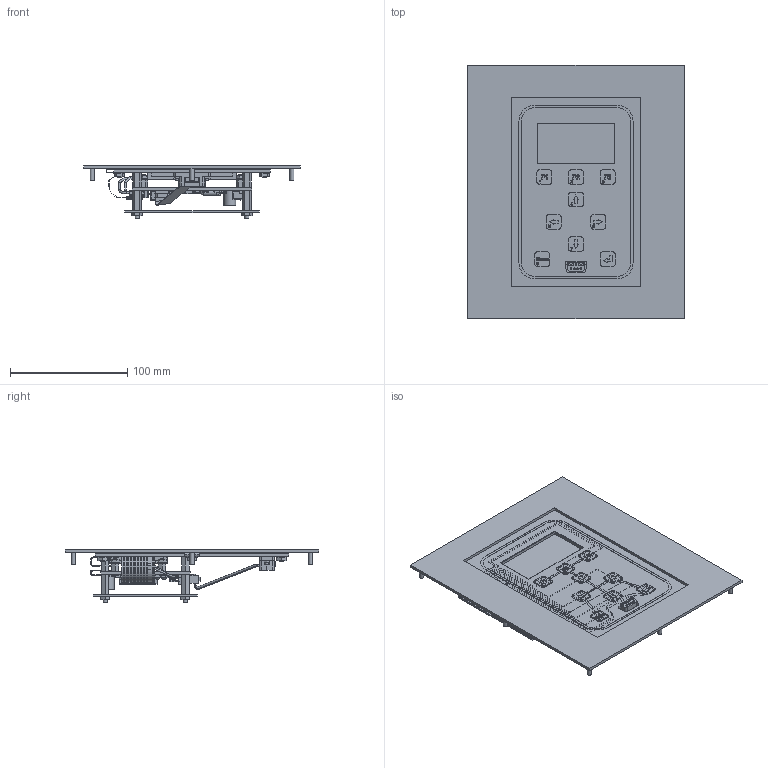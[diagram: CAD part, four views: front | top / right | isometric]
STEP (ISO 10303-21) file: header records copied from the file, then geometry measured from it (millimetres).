
FILE_DESCRIPTION((' '),'2;1');
FILE_NAME('C:\Users\mschreiber\Desktop\MAG-KEYPAD-DOOR (2014-11-25).stp','2014-12-04T14:55:53',(' '),(' '),' ','ACIS',' ');
FILE_SCHEMA(('CONFIG_CONTROL_DESIGN'));
Length unit declared in the file: millimetre
Products named in the file (302): C:\Users\mschreiber\Desktop\MAG-KEYPAD-DOOR (2014-11-25).stp; MAG-KEYPAD-DOOR (2014-11-25)_ForBodies; Body1; Body2; Body3; Body4; Body5; Body6; Body7; Body8; Body9; Body10; Body11; Body12; Body13; Body14; Body15; Body16; Body17; Body18; Body19; Body20; Body21; Body22; Body23; Body24; Body25; Body26; Body27; Body28; Body29; Body30; Body31; Body32; Body33; Body34; Body35; Body36; Body37; Body38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
Assembly tree (301 placements, depth 2):
  C:\Users\mschreiber\Desktop\MAG-KEYPAD-DOOR (2014-11-25).stp
    MAG-KEYPAD-DOOR (2014-11-25)_ForBodies
    Body1
    Body2
    Body3
    Body4
    Body5
    Body6
    Body7
    Body8
    Body9
    Body10
    Body11
    Body12
    Body13
    Body14
    Body15
    Body16
    Body17
    Body18
    Body19
    Body20
    Body21
    Body22
    Body23
    Body24
    Body25
    Body26
    Body27
    Body28
    Body29
    Body30
    Body31
    Body32
    Body33
    Body34
    Body35
    Body36
    Body37
    Body38
    Body39
    Body40
    Body41
    Body42
    Body43
    Body44
    Body45
    Body46
    Body47
    Body48
    Body49
    Body50
    Body51
    Body52
    Body53
    Body54
    Body55
    Body56
    Body57
    Body58
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Bounding box: 184.15 x 215.9 x 45.54 mm (x, y, z)
Volume: 193868.9 mm3; surface area: 386635.6 mm2
Topology: 300 solids, 301 shells, 5485 faces, 14491 edges, 9651 vertices
Faces by surface type: plane 4641, cylinder 804, torus 24, bspline 8, sphere 8
Full cylindrical faces by diameter (mm): 0.762 x8, 0.889 x2, 1.651 x21, 2.386 x1, 2.794 x32, 2.845 x4, 3.124 x4, 3.302 x2, 3.505 x44, 3.572 x4, 3.607 x5, 3.81 x8, 3.912 x1, 4.445 x40, 5.359 x8, 6.147 x5, 8.633 x2, 9.601 x1, 10.16 x1
Entity records: 212950 total; most frequent: CARTESIAN_POINT 33159, ORIENTED_EDGE 28276, DIRECTION 27811, EDGE_CURVE 14167, VECTOR 12475, LINE 12475, VERTEX_POINT 9536, AXIS2_PLACEMENT_3D 7668
